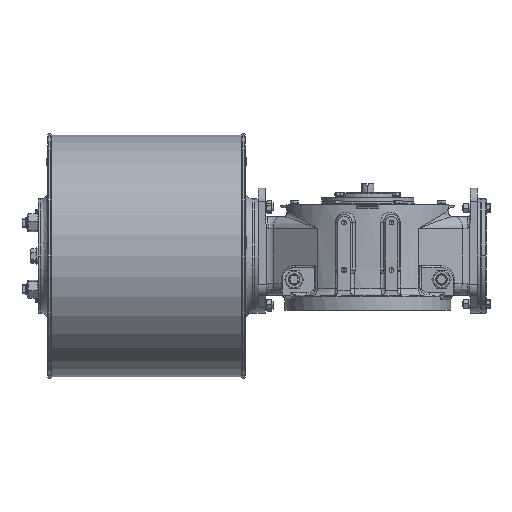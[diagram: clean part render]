
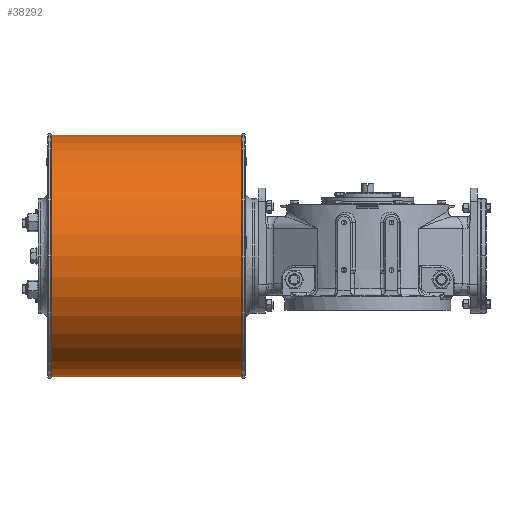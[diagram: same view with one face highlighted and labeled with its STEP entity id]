
A CAD part, front view. The second image highlights one B-rep face of the part: STEP entity #38292.
In plain terms, the highlighted cylindrical face has radius 254 mm (diameter 508 mm), a partial arc.
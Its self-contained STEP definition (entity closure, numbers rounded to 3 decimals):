
#1575 = DIRECTION ( 'NONE',  ( 0., 0., 1. ) ) ;
#1906 = DIRECTION ( 'NONE',  ( 1., 0., 0. ) ) ;
#2920 = CARTESIAN_POINT ( 'NONE',  ( -265.5, 108., 82.5 ) ) ;
#6325 = DIRECTION ( 'NONE',  ( -1., 0., 0. ) ) ;
#6728 = LINE ( 'NONE', #51848, #32884 ) ;
#7411 = CARTESIAN_POINT ( 'NONE',  ( -265.5, 108., 82.5 ) ) ;
#8513 = CIRCLE ( 'NONE', #11689, 254. ) ;
#11689 = AXIS2_PLACEMENT_3D ( 'NONE', #2920, #37407, #57989 ) ;
#11752 = DIRECTION ( 'NONE',  ( 0., 0., 1. ) ) ;
#12872 = EDGE_LOOP ( 'NONE', ( #44363, #56198, #31874, #15720 ) ) ;
#13003 = EDGE_CURVE ( 'NONE', #39801, #64525, #15187, .T. ) ;
#13222 = EDGE_CURVE ( 'NONE', #40937, #64525, #26212, .T. ) ;
#15187 = CIRCLE ( 'NONE', #35315, 254. ) ;
#15720 = ORIENTED_EDGE ( 'NONE', *, *, #13003, .T. ) ;
#16049 = CARTESIAN_POINT ( 'NONE',  ( -665.5, 108., -171.5 ) ) ;
#26212 = LINE ( 'NONE', #46774, #54407 ) ;
#31874 = ORIENTED_EDGE ( 'NONE', *, *, #34890, .T. ) ;
#32884 = VECTOR ( 'NONE', #35949, 1000. ) ;
#34890 = EDGE_CURVE ( 'NONE', #64199, #39801, #6728, .T. ) ;
#35315 = AXIS2_PLACEMENT_3D ( 'NONE', #52633, #1906, #1575 ) ;
#35949 = DIRECTION ( 'NONE',  ( -1., 0., 0. ) ) ;
#37407 = DIRECTION ( 'NONE',  ( -1., 0., 0. ) ) ;
#38292 = ADVANCED_FACE ( 'NONE', ( #62135 ), #57821, .T. ) ;
#39801 = VERTEX_POINT ( 'NONE', #60730 ) ;
#40937 = VERTEX_POINT ( 'NONE', #45805 ) ;
#44363 = ORIENTED_EDGE ( 'NONE', *, *, #13222, .F. ) ;
#45805 = CARTESIAN_POINT ( 'NONE',  ( -265.5, 108., -171.5 ) ) ;
#46774 = CARTESIAN_POINT ( 'NONE',  ( -265.5, 108., -171.5 ) ) ;
#50011 = EDGE_CURVE ( 'NONE', #40937, #64199, #8513, .T. ) ;
#51848 = CARTESIAN_POINT ( 'NONE',  ( -265.5, 108., 336.5 ) ) ;
#52633 = CARTESIAN_POINT ( 'NONE',  ( -665.5, 108., 82.5 ) ) ;
#54407 = VECTOR ( 'NONE', #6325, 1000. ) ;
#56198 = ORIENTED_EDGE ( 'NONE', *, *, #50011, .T. ) ;
#57186 = DIRECTION ( 'NONE',  ( -1., 0., 0. ) ) ;
#57821 = CYLINDRICAL_SURFACE ( 'NONE', #65150, 254. ) ;
#57989 = DIRECTION ( 'NONE',  ( 0., 0., 1. ) ) ;
#60730 = CARTESIAN_POINT ( 'NONE',  ( -665.5, 108., 336.5 ) ) ;
#62135 = FACE_OUTER_BOUND ( 'NONE', #12872, .T. ) ;
#63523 = CARTESIAN_POINT ( 'NONE',  ( -265.5, 108., 336.5 ) ) ;
#64199 = VERTEX_POINT ( 'NONE', #63523 ) ;
#64525 = VERTEX_POINT ( 'NONE', #16049 ) ;
#65150 = AXIS2_PLACEMENT_3D ( 'NONE', #7411, #57186, #11752 ) ;
